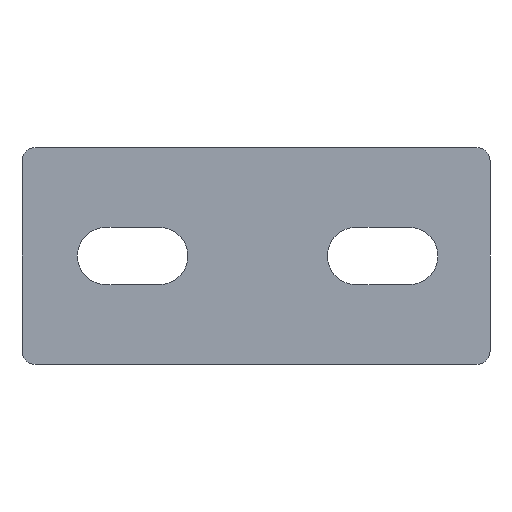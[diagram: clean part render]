
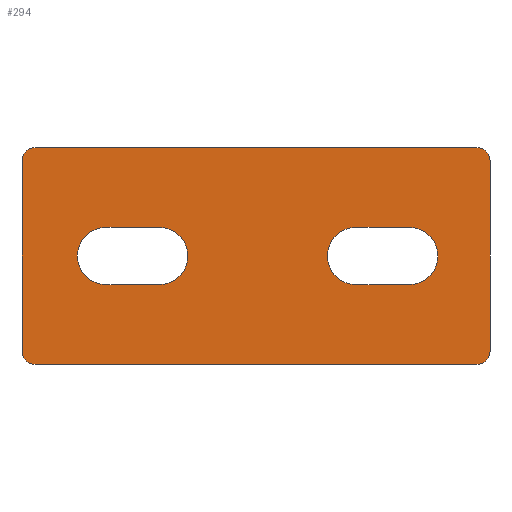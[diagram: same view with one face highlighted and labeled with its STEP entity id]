
A CAD part, front view. The second image highlights one B-rep face of the part: STEP entity #294.
In plain terms, the highlighted planar face has unit normal (0, -1, 0).
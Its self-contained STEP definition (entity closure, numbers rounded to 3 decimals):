
#3 = DIRECTION ( 'NONE',  ( 0., 0., -1. ) ) ;
#6 = PLANE ( 'NONE',  #518 ) ;
#9 = CARTESIAN_POINT ( 'NONE',  ( 23.55, 0., 4.4 ) ) ;
#13 = VECTOR ( 'NONE', #263, 1000. ) ;
#15 = DIRECTION ( 'NONE',  ( 1., 0., 0. ) ) ;
#20 = ORIENTED_EDGE ( 'NONE', *, *, #408, .T. ) ;
#23 = VECTOR ( 'NONE', #15, 1000. ) ;
#28 = ORIENTED_EDGE ( 'NONE', *, *, #158, .T. ) ;
#33 = CARTESIAN_POINT ( 'NONE',  ( 23.55, 0., 0. ) ) ;
#34 = ORIENTED_EDGE ( 'NONE', *, *, #124, .T. ) ;
#45 = VERTEX_POINT ( 'NONE', #333 ) ;
#49 = CARTESIAN_POINT ( 'NONE',  ( 23.55, 0., -4.4 ) ) ;
#52 = EDGE_CURVE ( 'NONE', #340, #353, #204, .T. ) ;
#56 = CIRCLE ( 'NONE', #440, 4.4 ) ;
#57 = DIRECTION ( 'NONE',  ( 0., -1., 0. ) ) ;
#60 = ORIENTED_EDGE ( 'NONE', *, *, #247, .F. ) ;
#65 = CARTESIAN_POINT ( 'NONE',  ( -35.95, 0., 14.65 ) ) ;
#68 = ORIENTED_EDGE ( 'NONE', *, *, #638, .T. ) ;
#79 = ORIENTED_EDGE ( 'NONE', *, *, #233, .F. ) ;
#80 = CARTESIAN_POINT ( 'NONE',  ( -33.95, 0., 16.65 ) ) ;
#82 = ORIENTED_EDGE ( 'NONE', *, *, #559, .T. ) ;
#83 = EDGE_CURVE ( 'NONE', #641, #472, #107, .T. ) ;
#85 = AXIS2_PLACEMENT_3D ( 'NONE', #33, #636, #288 ) ;
#94 = DIRECTION ( 'NONE',  ( 0., 0., -1. ) ) ;
#104 = DIRECTION ( 'NONE',  ( -1., 0., 0. ) ) ;
#105 = EDGE_LOOP ( 'NONE', ( #60, #82, #474, #398, #79, #68, #427, #336 ) ) ;
#106 = VERTEX_POINT ( 'NONE', #630 ) ;
#107 = LINE ( 'NONE', #431, #13 ) ;
#110 = LINE ( 'NONE', #268, #230 ) ;
#123 = EDGE_CURVE ( 'NONE', #642, #321, #564, .T. ) ;
#124 = EDGE_CURVE ( 'NONE', #164, #45, #433, .T. ) ;
#128 = ORIENTED_EDGE ( 'NONE', *, *, #481, .T. ) ;
#133 = FACE_OUTER_BOUND ( 'NONE', #105, .T. ) ;
#139 = VECTOR ( 'NONE', #104, 1000. ) ;
#142 = VERTEX_POINT ( 'NONE', #65 ) ;
#143 = DIRECTION ( 'NONE',  ( 0., 0., -1. ) ) ;
#150 = DIRECTION ( 'NONE',  ( 1., 0., 0. ) ) ;
#153 = CARTESIAN_POINT ( 'NONE',  ( 33.95, 0., -14.65 ) ) ;
#157 = CARTESIAN_POINT ( 'NONE',  ( -33.95, 0., -16.65 ) ) ;
#158 = EDGE_CURVE ( 'NONE', #478, #106, #545, .T. ) ;
#162 = VERTEX_POINT ( 'NONE', #463 ) ;
#164 = VERTEX_POINT ( 'NONE', #616 ) ;
#165 = CARTESIAN_POINT ( 'NONE',  ( 15.35, 0., -4.4 ) ) ;
#166 = VECTOR ( 'NONE', #371, 1000. ) ;
#201 = ORIENTED_EDGE ( 'NONE', *, *, #373, .T. ) ;
#204 = LINE ( 'NONE', #527, #506 ) ;
#205 = AXIS2_PLACEMENT_3D ( 'NONE', #404, #304, #143 ) ;
#224 = AXIS2_PLACEMENT_3D ( 'NONE', #338, #631, #284 ) ;
#230 = VECTOR ( 'NONE', #552, 1000. ) ;
#233 = EDGE_CURVE ( 'NONE', #554, #389, #110, .T. ) ;
#239 = DIRECTION ( 'NONE',  ( 0., -1., 0. ) ) ;
#240 = CIRCLE ( 'NONE', #605, 2. ) ;
#247 = EDGE_CURVE ( 'NONE', #162, #142, #367, .T. ) ;
#252 = DIRECTION ( 'NONE',  ( 0., 1., 0. ) ) ;
#256 = EDGE_CURVE ( 'NONE', #641, #142, #510, .T. ) ;
#259 = CIRCLE ( 'NONE', #224, 2. ) ;
#262 = DIRECTION ( 'NONE',  ( 0., 0., -1. ) ) ;
#263 = DIRECTION ( 'NONE',  ( 1., 0., 0. ) ) ;
#268 = CARTESIAN_POINT ( 'NONE',  ( 35.95, 0., 16.65 ) ) ;
#272 = VERTEX_POINT ( 'NONE', #9 ) ;
#284 = DIRECTION ( 'NONE',  ( 0., 0., -1. ) ) ;
#288 = DIRECTION ( 'NONE',  ( 0., 0., -1. ) ) ;
#289 = EDGE_CURVE ( 'NONE', #403, #478, #385, .T. ) ;
#294 = ADVANCED_FACE ( 'NONE', ( #654, #622, #133 ), #6, .T. ) ;
#304 = DIRECTION ( 'NONE',  ( 0., 1., 0. ) ) ;
#305 = DIRECTION ( 'NONE',  ( 0., 1., 0. ) ) ;
#306 = CARTESIAN_POINT ( 'NONE',  ( 33.95, 0., -16.65 ) ) ;
#311 = ORIENTED_EDGE ( 'NONE', *, *, #289, .T. ) ;
#312 = VECTOR ( 'NONE', #150, 1000. ) ;
#320 = CARTESIAN_POINT ( 'NONE',  ( -33.95, 0., 14.65 ) ) ;
#321 = VERTEX_POINT ( 'NONE', #357 ) ;
#333 = CARTESIAN_POINT ( 'NONE',  ( -14.85, 0., 4.4 ) ) ;
#336 = ORIENTED_EDGE ( 'NONE', *, *, #256, .T. ) ;
#338 = CARTESIAN_POINT ( 'NONE',  ( 33.95, 0., 14.65 ) ) ;
#340 = VERTEX_POINT ( 'NONE', #306 ) ;
#350 = CARTESIAN_POINT ( 'NONE',  ( 15.35, 0., -4.4 ) ) ;
#353 = VERTEX_POINT ( 'NONE', #157 ) ;
#357 = CARTESIAN_POINT ( 'NONE',  ( -23.05, 0., -4.4 ) ) ;
#367 = LINE ( 'NONE', #572, #482 ) ;
#369 = DIRECTION ( 'NONE',  ( 0., 0., 1. ) ) ;
#371 = DIRECTION ( 'NONE',  ( -1., 0., 0. ) ) ;
#373 = EDGE_CURVE ( 'NONE', #45, #642, #574, .T. ) ;
#375 = AXIS2_PLACEMENT_3D ( 'NONE', #652, #305, #603 ) ;
#385 = LINE ( 'NONE', #165, #139 ) ;
#389 = VERTEX_POINT ( 'NONE', #448 ) ;
#397 = ORIENTED_EDGE ( 'NONE', *, *, #123, .T. ) ;
#398 = ORIENTED_EDGE ( 'NONE', *, *, #417, .T. ) ;
#403 = VERTEX_POINT ( 'NONE', #49 ) ;
#404 = CARTESIAN_POINT ( 'NONE',  ( 15.35, 0., 0. ) ) ;
#408 = EDGE_CURVE ( 'NONE', #321, #164, #56, .T. ) ;
#409 = ORIENTED_EDGE ( 'NONE', *, *, #577, .T. ) ;
#412 = EDGE_LOOP ( 'NONE', ( #20, #34, #201, #397 ) ) ;
#417 = EDGE_CURVE ( 'NONE', #340, #389, #475, .T. ) ;
#421 = EDGE_LOOP ( 'NONE', ( #28, #128, #409, #311 ) ) ;
#425 = CARTESIAN_POINT ( 'NONE',  ( -23.05, 0., 4.4 ) ) ;
#427 = ORIENTED_EDGE ( 'NONE', *, *, #83, .F. ) ;
#431 = CARTESIAN_POINT ( 'NONE',  ( -35.95, 0., 16.65 ) ) ;
#433 = LINE ( 'NONE', #425, #23 ) ;
#440 = AXIS2_PLACEMENT_3D ( 'NONE', #602, #252, #553 ) ;
#448 = CARTESIAN_POINT ( 'NONE',  ( 35.95, 0., -14.65 ) ) ;
#456 = DIRECTION ( 'NONE',  ( 0., -1., 0. ) ) ;
#463 = CARTESIAN_POINT ( 'NONE',  ( -35.95, 0., -14.65 ) ) ;
#471 = AXIS2_PLACEMENT_3D ( 'NONE', #153, #456, #94 ) ;
#472 = VERTEX_POINT ( 'NONE', #650 ) ;
#474 = ORIENTED_EDGE ( 'NONE', *, *, #52, .F. ) ;
#475 = CIRCLE ( 'NONE', #471, 2. ) ;
#478 = VERTEX_POINT ( 'NONE', #350 ) ;
#481 = EDGE_CURVE ( 'NONE', #106, #272, #501, .T. ) ;
#482 = VECTOR ( 'NONE', #369, 1000. ) ;
#501 = LINE ( 'NONE', #549, #312 ) ;
#506 = VECTOR ( 'NONE', #628, 1000. ) ;
#510 = CIRCLE ( 'NONE', #570, 2. ) ;
#518 = AXIS2_PLACEMENT_3D ( 'NONE', #565, #57, #3 ) ;
#527 = CARTESIAN_POINT ( 'NONE',  ( -35.95, 0., -16.65 ) ) ;
#538 = DIRECTION ( 'NONE',  ( 0., 0., -1. ) ) ;
#540 = CIRCLE ( 'NONE', #85, 4.4 ) ;
#545 = CIRCLE ( 'NONE', #205, 4.4 ) ;
#549 = CARTESIAN_POINT ( 'NONE',  ( 15.35, 0., 4.4 ) ) ;
#552 = DIRECTION ( 'NONE',  ( 0., 0., -1. ) ) ;
#553 = DIRECTION ( 'NONE',  ( 0., 0., -1. ) ) ;
#554 = VERTEX_POINT ( 'NONE', #597 ) ;
#559 = EDGE_CURVE ( 'NONE', #162, #353, #240, .T. ) ;
#564 = LINE ( 'NONE', #573, #166 ) ;
#565 = CARTESIAN_POINT ( 'NONE',  ( 0., 0., 0. ) ) ;
#570 = AXIS2_PLACEMENT_3D ( 'NONE', #320, #612, #262 ) ;
#572 = CARTESIAN_POINT ( 'NONE',  ( -35.95, 0., 16.65 ) ) ;
#573 = CARTESIAN_POINT ( 'NONE',  ( -23.05, 0., -4.4 ) ) ;
#574 = CIRCLE ( 'NONE', #375, 4.4 ) ;
#577 = EDGE_CURVE ( 'NONE', #272, #403, #540, .T. ) ;
#591 = CARTESIAN_POINT ( 'NONE',  ( -14.85, 0., -4.4 ) ) ;
#594 = CARTESIAN_POINT ( 'NONE',  ( -33.95, 0., -14.65 ) ) ;
#597 = CARTESIAN_POINT ( 'NONE',  ( 35.95, 0., 14.65 ) ) ;
#602 = CARTESIAN_POINT ( 'NONE',  ( -23.05, 0., 0. ) ) ;
#603 = DIRECTION ( 'NONE',  ( 0., 0., -1. ) ) ;
#605 = AXIS2_PLACEMENT_3D ( 'NONE', #594, #239, #538 ) ;
#612 = DIRECTION ( 'NONE',  ( 0., -1., 0. ) ) ;
#616 = CARTESIAN_POINT ( 'NONE',  ( -23.05, 0., 4.4 ) ) ;
#622 = FACE_BOUND ( 'NONE', #412, .T. ) ;
#628 = DIRECTION ( 'NONE',  ( -1., 0., 0. ) ) ;
#630 = CARTESIAN_POINT ( 'NONE',  ( 15.35, 0., 4.4 ) ) ;
#631 = DIRECTION ( 'NONE',  ( 0., -1., 0. ) ) ;
#636 = DIRECTION ( 'NONE',  ( 0., 1., 0. ) ) ;
#638 = EDGE_CURVE ( 'NONE', #554, #472, #259, .T. ) ;
#641 = VERTEX_POINT ( 'NONE', #80 ) ;
#642 = VERTEX_POINT ( 'NONE', #591 ) ;
#650 = CARTESIAN_POINT ( 'NONE',  ( 33.95, 0., 16.65 ) ) ;
#652 = CARTESIAN_POINT ( 'NONE',  ( -14.85, 0., 0. ) ) ;
#654 = FACE_BOUND ( 'NONE', #421, .T. ) ;
